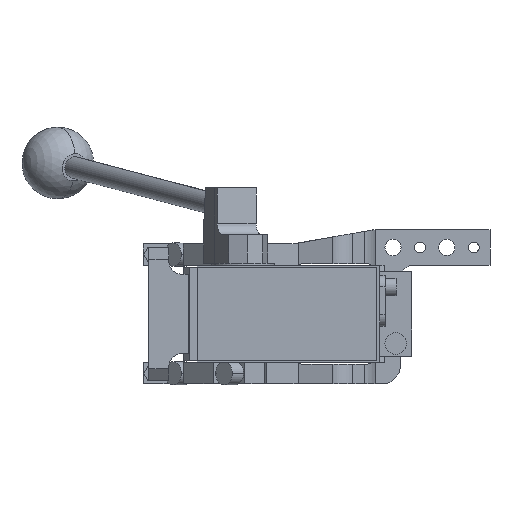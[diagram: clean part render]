
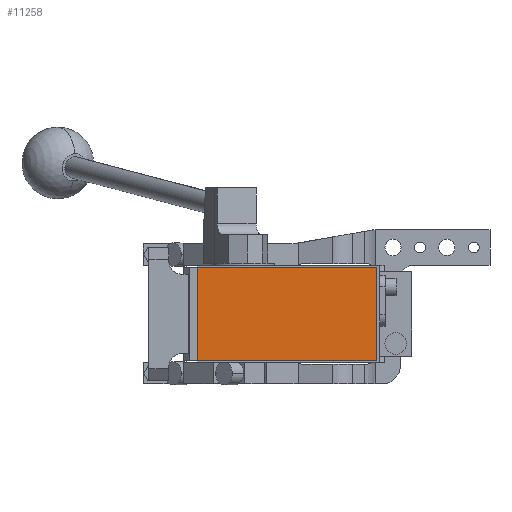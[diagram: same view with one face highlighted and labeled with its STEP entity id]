
A CAD part, front view. The second image highlights one B-rep face of the part: STEP entity #11258.
In plain terms, the highlighted planar face has unit normal (0, -1, 0).
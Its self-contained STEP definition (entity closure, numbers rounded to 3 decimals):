
#173 = EDGE_CURVE ( 'NONE', #3529, #8109, #12110, .T. ) ;
#809 = LINE ( 'NONE', #13305, #2597 ) ;
#2597 = VECTOR ( 'NONE', #13553, 1000. ) ;
#2720 = FACE_OUTER_BOUND ( 'NONE', #3683, .T. ) ;
#3465 = AXIS2_PLACEMENT_3D ( 'NONE', #6528, #7594, #6351 ) ;
#3529 = VERTEX_POINT ( 'NONE', #14103 ) ;
#3618 = LINE ( 'NONE', #13622, #12193 ) ;
#3683 = EDGE_LOOP ( 'NONE', ( #15214, #11351, #11299, #6415 ) ) ;
#4290 = LINE ( 'NONE', #9347, #11947 ) ;
#5689 = VECTOR ( 'NONE', #8602, 1000. ) ;
#5968 = VERTEX_POINT ( 'NONE', #12920 ) ;
#6283 = CARTESIAN_POINT ( 'NONE',  ( 81., -286.5, 26. ) ) ;
#6351 = DIRECTION ( 'NONE',  ( 0., 0., -1. ) ) ;
#6415 = ORIENTED_EDGE ( 'NONE', *, *, #11186, .T. ) ;
#6528 = CARTESIAN_POINT ( 'NONE',  ( 0., -286.5, 0. ) ) ;
#6613 = PLANE ( 'NONE',  #3465 ) ;
#7594 = DIRECTION ( 'NONE',  ( 0., -1., 0. ) ) ;
#8109 = VERTEX_POINT ( 'NONE', #15914 ) ;
#8182 = EDGE_CURVE ( 'NONE', #10834, #3529, #809, .T. ) ;
#8602 = DIRECTION ( 'NONE',  ( 0., 0., 1. ) ) ;
#9347 = CARTESIAN_POINT ( 'NONE',  ( -19., -286.5, 26. ) ) ;
#10834 = VERTEX_POINT ( 'NONE', #13892 ) ;
#11186 = EDGE_CURVE ( 'NONE', #8109, #5968, #3618, .T. ) ;
#11258 = ADVANCED_FACE ( 'NONE', ( #2720 ), #6613, .T. ) ;
#11299 = ORIENTED_EDGE ( 'NONE', *, *, #173, .T. ) ;
#11351 = ORIENTED_EDGE ( 'NONE', *, *, #8182, .T. ) ;
#11947 = VECTOR ( 'NONE', #14388, 1000. ) ;
#12041 = EDGE_CURVE ( 'NONE', #5968, #10834, #4290, .T. ) ;
#12110 = LINE ( 'NONE', #6283, #5689 ) ;
#12193 = VECTOR ( 'NONE', #12229, 1000. ) ;
#12229 = DIRECTION ( 'NONE',  ( -1., 0., 0. ) ) ;
#12920 = CARTESIAN_POINT ( 'NONE',  ( -19., -286.5, 26. ) ) ;
#13305 = CARTESIAN_POINT ( 'NONE',  ( -19., -286.5, -26. ) ) ;
#13553 = DIRECTION ( 'NONE',  ( 1., 0., 0. ) ) ;
#13622 = CARTESIAN_POINT ( 'NONE',  ( -19., -286.5, 26. ) ) ;
#13892 = CARTESIAN_POINT ( 'NONE',  ( -19., -286.5, -26. ) ) ;
#14103 = CARTESIAN_POINT ( 'NONE',  ( 81., -286.5, -26. ) ) ;
#14388 = DIRECTION ( 'NONE',  ( 0., 0., -1. ) ) ;
#15214 = ORIENTED_EDGE ( 'NONE', *, *, #12041, .T. ) ;
#15914 = CARTESIAN_POINT ( 'NONE',  ( 81., -286.5, 26. ) ) ;
